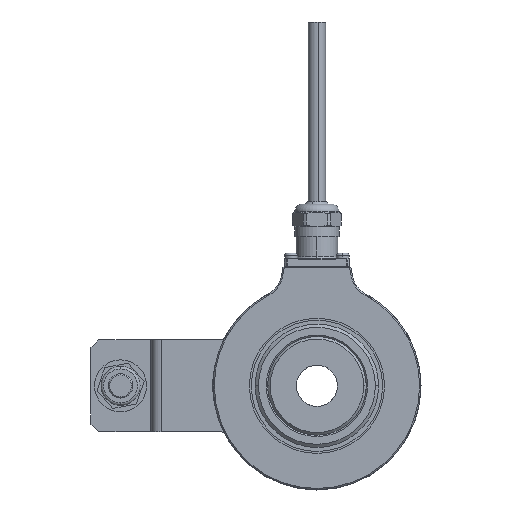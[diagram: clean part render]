
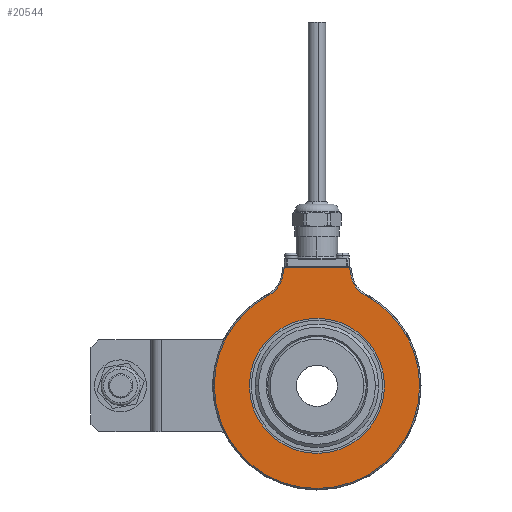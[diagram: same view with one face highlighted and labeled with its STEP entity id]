
A CAD part, left-side view. The second image highlights one B-rep face of the part: STEP entity #20544.
In plain terms, the highlighted planar face has unit normal (-1, 0, 0).
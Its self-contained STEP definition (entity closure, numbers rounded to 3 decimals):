
#577 = DIRECTION ( 'NONE',  ( 0., 1., 0. ) ) ;
#1168 = CARTESIAN_POINT ( 'NONE',  ( -26., 13.141, 42.32 ) ) ;
#1508 = VERTEX_POINT ( 'NONE', #1168 ) ;
#2068 = AXIS2_PLACEMENT_3D ( 'NONE', #15787, #20005, #24922 ) ;
#2204 = CARTESIAN_POINT ( 'NONE',  ( -26., -39.5, 0. ) ) ;
#2301 = DIRECTION ( 'NONE',  ( 0., 1., 0. ) ) ;
#2463 = LINE ( 'NONE', #2752, #25445 ) ;
#2493 = EDGE_CURVE ( 'NONE', #18750, #10009, #10212, .T. ) ;
#2752 = CARTESIAN_POINT ( 'NONE',  ( -26., -18.776, 10.364 ) ) ;
#3067 = DIRECTION ( 'NONE',  ( 0., -1., 0. ) ) ;
#3621 = AXIS2_PLACEMENT_3D ( 'NONE', #15572, #11033, #29534 ) ;
#3692 = CARTESIAN_POINT ( 'NONE',  ( -26., 21.188, -3.317 ) ) ;
#4047 = CARTESIAN_POINT ( 'NONE',  ( -26., -18.551, 34.873 ) ) ;
#4063 = DIRECTION ( 'NONE',  ( 0., 1., 0. ) ) ;
#4129 = EDGE_LOOP ( 'NONE', ( #9664, #19795, #4338, #20184, #12688, #28223, #8244, #8776 ) ) ;
#4180 = PLANE ( 'NONE',  #2068 ) ;
#4338 = ORIENTED_EDGE ( 'NONE', *, *, #26762, .T. ) ;
#4433 = AXIS2_PLACEMENT_3D ( 'NONE', #23411, #18784, #18635 ) ;
#4517 = DIRECTION ( 'NONE',  ( 0., -1., 0. ) ) ;
#4674 = VERTEX_POINT ( 'NONE', #20587 ) ;
#4794 = EDGE_CURVE ( 'NONE', #15576, #18750, #15520, .T. ) ;
#5203 = CARTESIAN_POINT ( 'NONE',  ( -26., 0., 0. ) ) ;
#5856 = VECTOR ( 'NONE', #17276, 1000. ) ;
#6191 = AXIS2_PLACEMENT_3D ( 'NONE', #15615, #29276, #6553 ) ;
#6375 = ORIENTED_EDGE ( 'NONE', *, *, #6448, .T. ) ;
#6448 = EDGE_CURVE ( 'NONE', #26944, #6733, #20719, .T. ) ;
#6553 = DIRECTION ( 'NONE',  ( 0., -1., 0. ) ) ;
#6733 = VERTEX_POINT ( 'NONE', #18592 ) ;
#8244 = ORIENTED_EDGE ( 'NONE', *, *, #4794, .T. ) ;
#8581 = VERTEX_POINT ( 'NONE', #21707 ) ;
#8776 = ORIENTED_EDGE ( 'NONE', *, *, #2493, .T. ) ;
#8907 = CARTESIAN_POINT ( 'NONE',  ( -26., 40., 45.5 ) ) ;
#9664 = ORIENTED_EDGE ( 'NONE', *, *, #16182, .T. ) ;
#10009 = VERTEX_POINT ( 'NONE', #22084 ) ;
#10114 = EDGE_CURVE ( 'NONE', #1508, #22679, #12410, .T. ) ;
#10212 = CIRCLE ( 'NONE', #24122, 10.5 ) ;
#11033 = DIRECTION ( 'NONE',  ( -1., 0., 0. ) ) ;
#11112 = FACE_BOUND ( 'NONE', #29070, .T. ) ;
#11637 = DIRECTION ( 'NONE',  ( 0., 0.174, 0.985 ) ) ;
#12170 = EDGE_CURVE ( 'NONE', #6733, #26944, #17193, .T. ) ;
#12390 = DIRECTION ( 'NONE',  ( 1., 0., 0. ) ) ;
#12410 = CIRCLE ( 'NONE', #6191, 10.5 ) ;
#12688 = ORIENTED_EDGE ( 'NONE', *, *, #21714, .T. ) ;
#13732 = CIRCLE ( 'NONE', #3621, 39.5 ) ;
#14224 = CARTESIAN_POINT ( 'NONE',  ( -26., -23.482, 44.143 ) ) ;
#14283 = ORIENTED_EDGE ( 'NONE', *, *, #12170, .T. ) ;
#15520 = CIRCLE ( 'NONE', #4433, 39.5 ) ;
#15572 = CARTESIAN_POINT ( 'NONE',  ( -26., 0., 0. ) ) ;
#15576 = VERTEX_POINT ( 'NONE', #2204 ) ;
#15615 = CARTESIAN_POINT ( 'NONE',  ( -26., 23.482, 44.143 ) ) ;
#15672 = DIRECTION ( 'NONE',  ( -1., 0., 0. ) ) ;
#15787 = CARTESIAN_POINT ( 'NONE',  ( -26., 40., 0. ) ) ;
#16182 = EDGE_CURVE ( 'NONE', #10009, #8581, #2463, .T. ) ;
#16236 = AXIS2_PLACEMENT_3D ( 'NONE', #24228, #26928, #4063 ) ;
#17193 = CIRCLE ( 'NONE', #16236, 26. ) ;
#17276 = DIRECTION ( 'NONE',  ( 0., 0.174, -0.985 ) ) ;
#18592 = CARTESIAN_POINT ( 'NONE',  ( -26., -26., 0. ) ) ;
#18635 = DIRECTION ( 'NONE',  ( 0., -1., 0. ) ) ;
#18750 = VERTEX_POINT ( 'NONE', #4047 ) ;
#18784 = DIRECTION ( 'NONE',  ( -1., 0., 0. ) ) ;
#19795 = ORIENTED_EDGE ( 'NONE', *, *, #28413, .T. ) ;
#20005 = DIRECTION ( 'NONE',  ( -1., 0., 0. ) ) ;
#20184 = ORIENTED_EDGE ( 'NONE', *, *, #10114, .T. ) ;
#20544 = ADVANCED_FACE ( 'NONE', ( #22700, #11112 ), #4180, .T. ) ;
#20587 = CARTESIAN_POINT ( 'NONE',  ( -26., 12.58, 45.5 ) ) ;
#20719 = CIRCLE ( 'NONE', #23576, 26. ) ;
#21183 = DIRECTION ( 'NONE',  ( 1., 0., 0. ) ) ;
#21707 = CARTESIAN_POINT ( 'NONE',  ( -26., -12.58, 45.5 ) ) ;
#21714 = EDGE_CURVE ( 'NONE', #22679, #26016, #13732, .T. ) ;
#22084 = CARTESIAN_POINT ( 'NONE',  ( -26., -13.141, 42.32 ) ) ;
#22172 = CIRCLE ( 'NONE', #26008, 39.5 ) ;
#22346 = LINE ( 'NONE', #3692, #5856 ) ;
#22679 = VERTEX_POINT ( 'NONE', #25662 ) ;
#22700 = FACE_OUTER_BOUND ( 'NONE', #4129, .T. ) ;
#22912 = LINE ( 'NONE', #8907, #27588 ) ;
#23411 = CARTESIAN_POINT ( 'NONE',  ( -26., 0., 0. ) ) ;
#23576 = AXIS2_PLACEMENT_3D ( 'NONE', #5203, #21183, #577 ) ;
#24122 = AXIS2_PLACEMENT_3D ( 'NONE', #14224, #12390, #3067 ) ;
#24228 = CARTESIAN_POINT ( 'NONE',  ( -26., 0., 0. ) ) ;
#24614 = EDGE_CURVE ( 'NONE', #26016, #15576, #22172, .T. ) ;
#24922 = DIRECTION ( 'NONE',  ( 0., -1., 0. ) ) ;
#25445 = VECTOR ( 'NONE', #11637, 1000. ) ;
#25662 = CARTESIAN_POINT ( 'NONE',  ( -26., 18.551, 34.873 ) ) ;
#26008 = AXIS2_PLACEMENT_3D ( 'NONE', #29488, #15672, #4517 ) ;
#26016 = VERTEX_POINT ( 'NONE', #29495 ) ;
#26762 = EDGE_CURVE ( 'NONE', #4674, #1508, #22346, .T. ) ;
#26928 = DIRECTION ( 'NONE',  ( 1., 0., 0. ) ) ;
#26944 = VERTEX_POINT ( 'NONE', #28056 ) ;
#27588 = VECTOR ( 'NONE', #2301, 1000. ) ;
#28056 = CARTESIAN_POINT ( 'NONE',  ( -26., 26., 0. ) ) ;
#28223 = ORIENTED_EDGE ( 'NONE', *, *, #24614, .T. ) ;
#28413 = EDGE_CURVE ( 'NONE', #8581, #4674, #22912, .T. ) ;
#29070 = EDGE_LOOP ( 'NONE', ( #6375, #14283 ) ) ;
#29276 = DIRECTION ( 'NONE',  ( 1., 0., 0. ) ) ;
#29488 = CARTESIAN_POINT ( 'NONE',  ( -26., 0., 0. ) ) ;
#29495 = CARTESIAN_POINT ( 'NONE',  ( -26., 39.5, 0. ) ) ;
#29534 = DIRECTION ( 'NONE',  ( 0., -1., 0. ) ) ;
